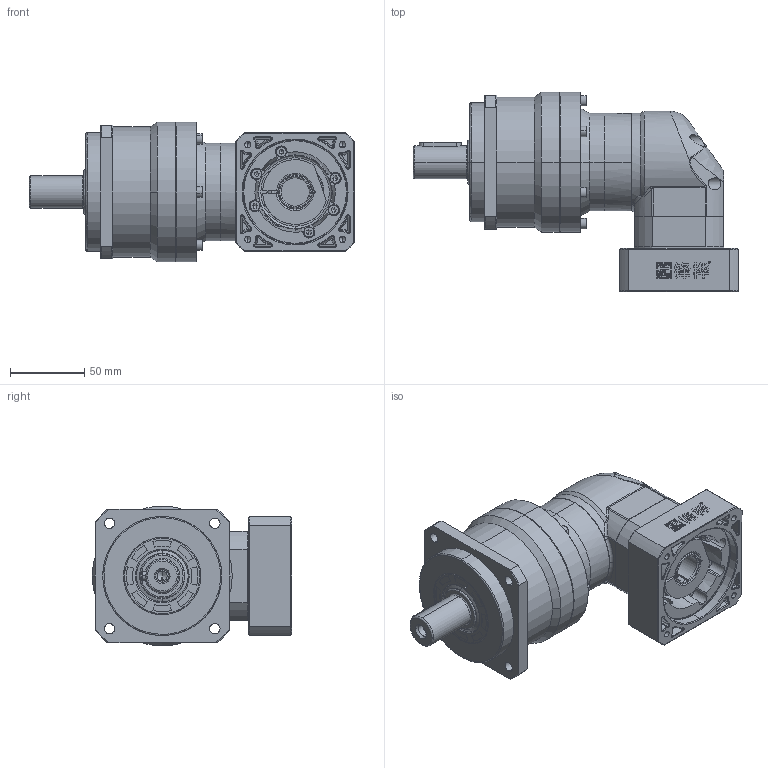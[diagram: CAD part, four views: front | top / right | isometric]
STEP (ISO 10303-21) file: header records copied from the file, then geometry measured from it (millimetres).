
FILE_DESCRIPTION (( 'STEP AP214' ), '1' );
FILE_NAME ('EVB090-L2-S2-P2 19-70-90-M5.STEP', '2021-04-24T03:26:59', ( 'User' ), ( 'china' ), 'SwSTEP 2.0', 'SolidWorks 2016', '' );
FILE_SCHEMA (( 'AUTOMOTIVE_DESIGN' ));
Length unit declared in the file: millimetre
Products named in the file (14): 输入轴EVB060M1-19; M4-10樓粟菜; 12-输入法兰EVB060M1-70X30XM5-200525; 4-输入端壳体EVB060M1; 珨撰眻褒眊极EVB064D-5.27; 9-怀堤傷褲极EVB064D; hexagon socket head cap screws gb_GB_FASTENER_SCREWS_HSHCS M4X20-N; 一级内齿圈壳体EVB064D-Z108; A倰す瑩 6-28_1; 蚐猾30526_1; 怀堤俴陎殤EVB090-5D; 输出内齿圈壳体EVB090D-Z108; EVB090-L2-S2-P2 19-70-90-M5; 坶踡遠23-43.5-12(1)
Assembly tree (23 placements, depth 2):
  EVB090-L2-S2-P2 19-70-90-M5
    输出内齿圈壳体EVB090D-Z108
    怀堤俴陎殤EVB090-5D
    蚐猾30526_1
    A倰す瑩 6-28_1
    一级内齿圈壳体EVB064D-Z108
    hexagon socket head cap screws gb_GB_FASTENER_SCREWS_HSHCS M4X20-N  x6
    9-怀堤傷褲极EVB064D
    珨撰眻褒眊极EVB064D-5.27
    4-输入端壳体EVB060M1
    12-输入法兰EVB060M1-70X30XM5-200525
    M4-10樓粟菜  x6
    输入轴EVB060M1-19
    坶踡遠23-43.5-12(1)
Bounding box: 218.5 x 134 x 94 mm (x, y, z)
Volume: 988206.2 mm3; surface area: 171583.5 mm2
Topology: 18 solids, 30 shells, 1420 faces, 3543 edges, 2225 vertices
Faces by surface type: plane 570, cylinder 376, bspline 182, cone 178, torus 114
Entity records: 59362 total; most frequent: CARTESIAN_POINT 19508, ORIENTED_EDGE 5696, DIRECTION 5220, EDGE_CURVE 2851, AXIS2_PLACEMENT_3D 1897, VERTEX_POINT 1825, LINE 1426, VECTOR 1426
